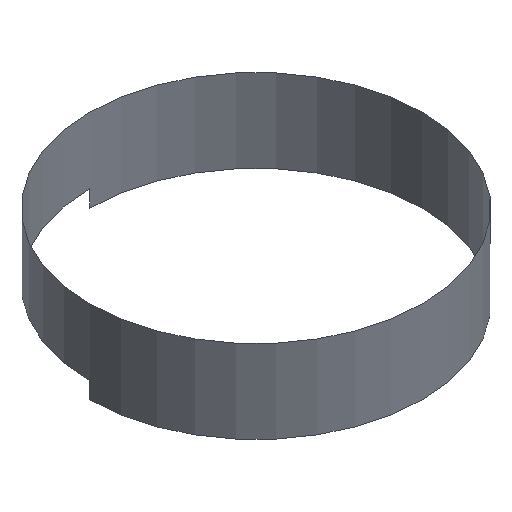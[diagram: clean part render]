
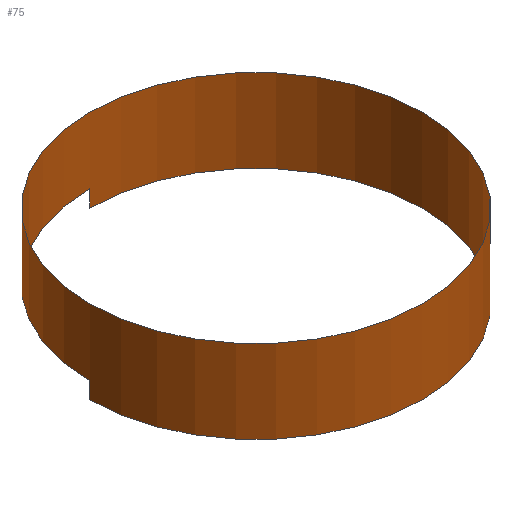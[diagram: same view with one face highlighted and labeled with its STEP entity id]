
A CAD part, isometric view. The second image highlights one B-rep face of the part: STEP entity #75.
In plain terms, the highlighted cylindrical face has radius 10 mm (diameter 20 mm), a full revolution.
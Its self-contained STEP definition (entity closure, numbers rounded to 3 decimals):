
#1=CARTESIAN_POINT('',(0.,0.,0.));
#2=CARTESIAN_POINT('',(0.,0.,1.));
#3=CARTESIAN_POINT('',(0.,0.,5.));
#10=CARTESIAN_POINT('',(10.,0.,0.));
#11=CARTESIAN_POINT('',(0.,10.,0.));
#12=CARTESIAN_POINT('',(0.,10.,1.));
#13=CARTESIAN_POINT('',(-10.,0.,1.));
#14=CARTESIAN_POINT('',(-10.,0.,0.));
#15=CARTESIAN_POINT('',(10.,0.,5.));
#20=VERTEX_POINT('',#10);
#21=VERTEX_POINT('',#11);
#22=VERTEX_POINT('',#12);
#23=VERTEX_POINT('',#13);
#24=VERTEX_POINT('',#14);
#25=VERTEX_POINT('',#15);
#30=DIRECTION('',(0.,0.,1.));
#31=DIRECTION('',(1.,0.,0.));
#32=DIRECTION('',(0.,0.,-1.));
#33=VECTOR('',#30,1.);
#34=VECTOR('',#32,1.);
#40=AXIS2_PLACEMENT_3D('',#1,#30,#31);
#41=AXIS2_PLACEMENT_3D('',#2,#30,#31);
#42=AXIS2_PLACEMENT_3D('',#3,#30,#31);
#43=CIRCLE('',#40,10.);
#44=CIRCLE('',#41,10.);
#45=CIRCLE('',#42,10.);
#46=LINE('',#11,#33);
#47=LINE('',#13,#34);
#50=EDGE_CURVE('',#20,#21,#43,.T.);
#51=EDGE_CURVE('',#21,#22,#46,.T.);
#52=EDGE_CURVE('',#22,#23,#44,.T.);
#53=EDGE_CURVE('',#23,#24,#47,.T.);
#54=EDGE_CURVE('',#24,#20,#43,.T.);
#55=EDGE_CURVE('',#25,#25,#45,.T.);
#60=ORIENTED_EDGE('',*,*,#50,.T.);
#61=ORIENTED_EDGE('',*,*,#51,.T.);
#62=ORIENTED_EDGE('',*,*,#52,.T.);
#63=ORIENTED_EDGE('',*,*,#53,.T.);
#64=ORIENTED_EDGE('',*,*,#54,.T.);
#65=ORIENTED_EDGE('',*,*,#55,.F.);
#70=EDGE_LOOP('',(#60,#61,#62,#63,#64));
#71=EDGE_LOOP('',(#65));
#72=FACE_OUTER_BOUND('',#70,.T.);
#73=FACE_BOUND('',#71,.T.);
#74=CYLINDRICAL_SURFACE('',#40,10.);
#75=ADVANCED_FACE('',(#72,#73),#74,.T.);
